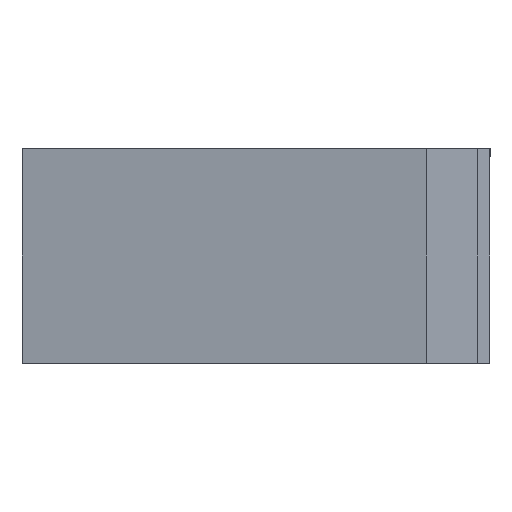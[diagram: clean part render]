
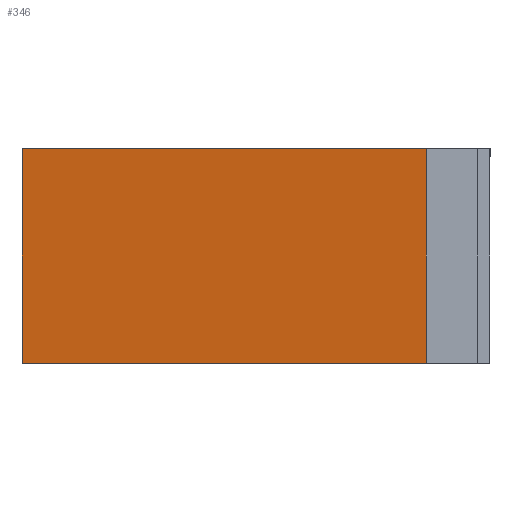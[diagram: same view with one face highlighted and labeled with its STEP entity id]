
A CAD part, front view. The second image highlights one B-rep face of the part: STEP entity #346.
In plain terms, the highlighted planar face has unit normal (-0.171, -0.985, 0).
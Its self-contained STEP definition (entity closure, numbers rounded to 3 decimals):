
#45 = AXIS2_PLACEMENT_3D ( 'NONE', #706, #331, #769 ) ;
#57 = EDGE_CURVE ( 'NONE', #461, #598, #771, .T. ) ;
#87 = EDGE_LOOP ( 'NONE', ( #243, #195, #393, #390 ) ) ;
#123 = VECTOR ( 'NONE', #576, 1000. ) ;
#140 = CARTESIAN_POINT ( 'NONE',  ( 124.342, 228.313, 0. ) ) ;
#180 = CARTESIAN_POINT ( 'NONE',  ( 124.342, 228.313, 0. ) ) ;
#195 = ORIENTED_EDGE ( 'NONE', *, *, #57, .T. ) ;
#234 = DIRECTION ( 'NONE',  ( -0.985, 0.171, 0. ) ) ;
#243 = ORIENTED_EDGE ( 'NONE', *, *, #601, .T. ) ;
#275 = PLANE ( 'NONE',  #45 ) ;
#292 = CARTESIAN_POINT ( 'NONE',  ( 171.442, 220.117, 0. ) ) ;
#295 = LINE ( 'NONE', #584, #123 ) ;
#331 = DIRECTION ( 'NONE',  ( -0.171, -0.985, 0. ) ) ;
#336 = CARTESIAN_POINT ( 'NONE',  ( 124.342, 228.313, 25. ) ) ;
#346 = ADVANCED_FACE ( 'NONE', ( #756 ), #275, .T. ) ;
#388 = VECTOR ( 'NONE', #234, 1000. ) ;
#390 = ORIENTED_EDGE ( 'NONE', *, *, #455, .T. ) ;
#393 = ORIENTED_EDGE ( 'NONE', *, *, #707, .T. ) ;
#455 = EDGE_CURVE ( 'NONE', #500, #541, #295, .T. ) ;
#461 = VERTEX_POINT ( 'NONE', #336 ) ;
#467 = CARTESIAN_POINT ( 'NONE',  ( 171.442, 220.117, 25. ) ) ;
#500 = VERTEX_POINT ( 'NONE', #642 ) ;
#514 = VECTOR ( 'NONE', #529, 1000. ) ;
#515 = CARTESIAN_POINT ( 'NONE',  ( 171.442, 220.117, 25. ) ) ;
#529 = DIRECTION ( 'NONE',  ( 0.985, -0.171, 0. ) ) ;
#541 = VERTEX_POINT ( 'NONE', #515 ) ;
#552 = DIRECTION ( 'NONE',  ( 0., 0., -1. ) ) ;
#576 = DIRECTION ( 'NONE',  ( 0., 0., 1. ) ) ;
#584 = CARTESIAN_POINT ( 'NONE',  ( 171.442, 220.117, 0. ) ) ;
#585 = VECTOR ( 'NONE', #552, 1000. ) ;
#598 = VERTEX_POINT ( 'NONE', #180 ) ;
#601 = EDGE_CURVE ( 'NONE', #541, #461, #753, .T. ) ;
#642 = CARTESIAN_POINT ( 'NONE',  ( 171.442, 220.117, 0. ) ) ;
#706 = CARTESIAN_POINT ( 'NONE',  ( 171.442, 220.117, 0. ) ) ;
#707 = EDGE_CURVE ( 'NONE', #598, #500, #792, .T. ) ;
#753 = LINE ( 'NONE', #467, #388 ) ;
#756 = FACE_OUTER_BOUND ( 'NONE', #87, .T. ) ;
#769 = DIRECTION ( 'NONE',  ( 0.985, -0.171, 0. ) ) ;
#771 = LINE ( 'NONE', #140, #585 ) ;
#792 = LINE ( 'NONE', #292, #514 ) ;
